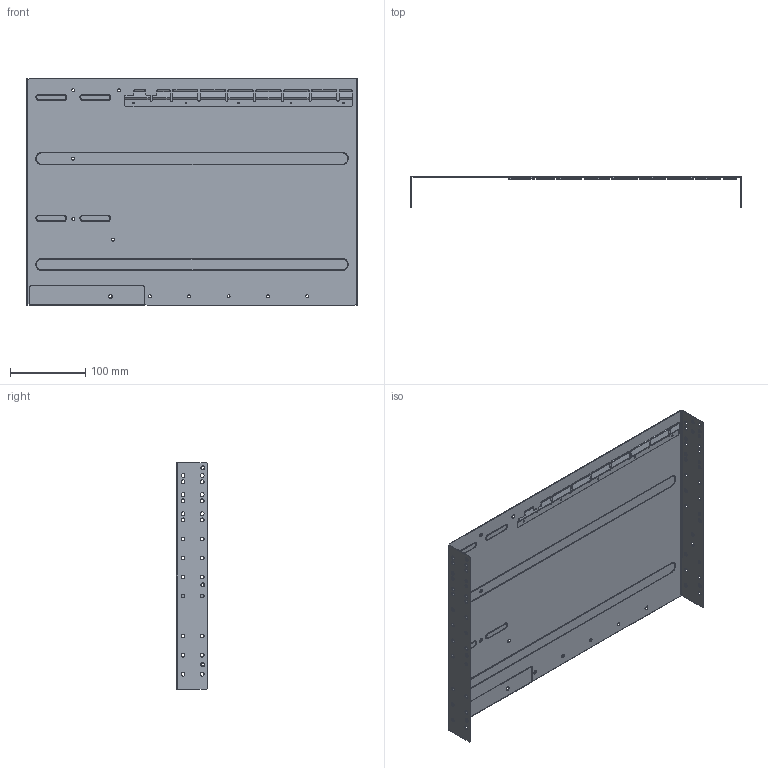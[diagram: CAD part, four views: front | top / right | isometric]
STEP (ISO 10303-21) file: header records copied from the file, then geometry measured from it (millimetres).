
FILE_DESCRIPTION((''),'2;1');
FILE_NAME('TOP_COVER_ASM_CSGR_01_ASM','2019-02-14T',('calvi'),(''),'CREO PARAMETRIC BY PTC INC, 2015480','CREO PARAMETRIC BY PTC INC, 2015480','');
FILE_SCHEMA(('CONFIG_CONTROL_DESIGN'));
Length unit declared in the file: millimetre
Products named in the file (3): MSBR-2; MSBR-1; TOP_COVER_ASM_CSGR_01_ASM
Assembly tree (2 placements, depth 2):
  TOP_COVER_ASM_CSGR_01_ASM
    MSBR-2
    MSBR-1
Bounding box: 440 x 41.8 x 302 mm (x, y, z)
Volume: 133380.1 mm3; surface area: 336361.9 mm2
Topology: 2 solids, 2 shells, 698 faces, 1828 edges, 1146 vertices
Faces by surface type: cylinder 314, plane 274, cone 50, torus 48, sphere 12
Entity records: 26881 total; most frequent: DIRECTION 4126, CARTESIAN_POINT 3677, ORIENTED_EDGE 3632, EDGE_CURVE 1816, AXIS2_PLACEMENT_3D 1613, VERTEX_POINT 1146, CIRCLE 910, VECTOR 900
